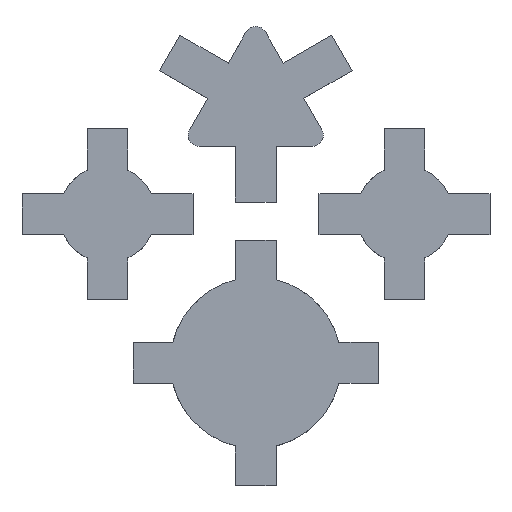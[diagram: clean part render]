
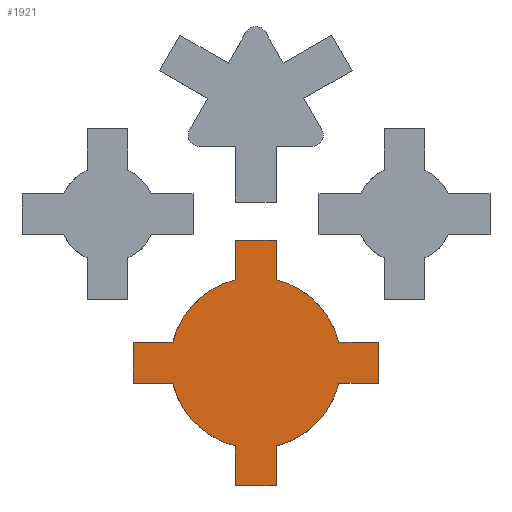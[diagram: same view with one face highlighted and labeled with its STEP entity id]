
A CAD part, top view. The second image highlights one B-rep face of the part: STEP entity #1921.
In plain terms, the highlighted planar face has unit normal (0, 0, 1).
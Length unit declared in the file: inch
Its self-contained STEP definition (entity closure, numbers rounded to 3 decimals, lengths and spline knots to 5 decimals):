
#12 = LINE ( 'NONE', #581, #266 ) ;
#32 = LINE ( 'NONE', #314, #649 ) ;
#65 = CARTESIAN_POINT ( 'NONE',  ( -0.82608, -1.88, 0. ) ) ;
#102 = CARTESIAN_POINT ( 'NONE',  ( -0.82608, -1.77, 0. ) ) ;
#104 = LINE ( 'NONE', #1757, #162 ) ;
#109 = VERTEX_POINT ( 'NONE', #102 ) ;
#112 = ORIENTED_EDGE ( 'NONE', *, *, #2004, .T. ) ;
#120 = VERTEX_POINT ( 'NONE', #286 ) ;
#123 = ORIENTED_EDGE ( 'NONE', *, *, #735, .T. ) ;
#124 = CIRCLE ( 'NONE', #1232, 0.23 ) ;
#130 = VERTEX_POINT ( 'NONE', #1042 ) ;
#134 = LINE ( 'NONE', #1567, #1386 ) ;
#135 = EDGE_CURVE ( 'NONE', #120, #710, #626, .T. ) ;
#153 = VECTOR ( 'NONE', #164, 39.37008 ) ;
#162 = VECTOR ( 'NONE', #1572, 39.37008 ) ;
#164 = DIRECTION ( 'NONE',  ( 0., 1., 0. ) ) ;
#180 = CARTESIAN_POINT ( 'NONE',  ( -0.99441, -1.60167, 0. ) ) ;
#182 = LINE ( 'NONE', #336, #1196 ) ;
#198 = AXIS2_PLACEMENT_3D ( 'NONE', #954, #1906, #1130 ) ;
#203 = ORIENTED_EDGE ( 'NONE', *, *, #1710, .T. ) ;
#206 = ORIENTED_EDGE ( 'NONE', *, *, #776, .T. ) ;
#263 = CARTESIAN_POINT ( 'NONE',  ( -0.99441, -2.155, 0. ) ) ;
#266 = VECTOR ( 'NONE', #777, 39.37008 ) ;
#286 = CARTESIAN_POINT ( 'NONE',  ( -1.10441, -2.155, 0. ) ) ;
#292 = CARTESIAN_POINT ( 'NONE',  ( -1.04941, -1.825, 0. ) ) ;
#314 = CARTESIAN_POINT ( 'NONE',  ( -0.71941, -1.88, 0. ) ) ;
#323 = VECTOR ( 'NONE', #421, 39.37008 ) ;
#336 = CARTESIAN_POINT ( 'NONE',  ( -0.71941, -1.77, 0. ) ) ;
#362 = DIRECTION ( 'NONE',  ( 1., 0., 0. ) ) ;
#393 = VERTEX_POINT ( 'NONE', #1725 ) ;
#397 = VERTEX_POINT ( 'NONE', #2280 ) ;
#398 = DIRECTION ( 'NONE',  ( 1., 0., 0. ) ) ;
#414 = VERTEX_POINT ( 'NONE', #805 ) ;
#417 = DIRECTION ( 'NONE',  ( 0., -1., 0. ) ) ;
#421 = DIRECTION ( 'NONE',  ( 1., 0., 0. ) ) ;
#479 = VERTEX_POINT ( 'NONE', #1362 ) ;
#520 = CARTESIAN_POINT ( 'NONE',  ( -1.27274, -1.77, 0. ) ) ;
#521 = ORIENTED_EDGE ( 'NONE', *, *, #135, .T. ) ;
#581 = CARTESIAN_POINT ( 'NONE',  ( -1.37941, -1.77, 0. ) ) ;
#607 = CARTESIAN_POINT ( 'NONE',  ( -1.37941, -1.88, 0. ) ) ;
#612 = CARTESIAN_POINT ( 'NONE',  ( -1.10441, -2.04833, 0. ) ) ;
#616 = CARTESIAN_POINT ( 'NONE',  ( -1.10441, -1.495, 0. ) ) ;
#626 = LINE ( 'NONE', #1601, #1047 ) ;
#634 = DIRECTION ( 'NONE',  ( 1., 0., 0. ) ) ;
#649 = VECTOR ( 'NONE', #1115, 39.37008 ) ;
#659 = CARTESIAN_POINT ( 'NONE',  ( -1.27274, -1.77, 0. ) ) ;
#710 = VERTEX_POINT ( 'NONE', #1376 ) ;
#735 = EDGE_CURVE ( 'NONE', #710, #479, #1740, .T. ) ;
#755 = VERTEX_POINT ( 'NONE', #1021 ) ;
#776 = EDGE_CURVE ( 'NONE', #414, #1516, #134, .T. ) ;
#777 = DIRECTION ( 'NONE',  ( 0., -1., 0. ) ) ;
#783 = EDGE_CURVE ( 'NONE', #2016, #120, #104, .T. ) ;
#805 = CARTESIAN_POINT ( 'NONE',  ( -0.99441, -1.495, 0. ) ) ;
#816 = DIRECTION ( 'NONE',  ( 0., 1., 0. ) ) ;
#836 = CARTESIAN_POINT ( 'NONE',  ( -1.27274, -1.88, 0. ) ) ;
#886 = DIRECTION ( 'NONE',  ( 1., 0., 0. ) ) ;
#922 = VECTOR ( 'NONE', #1792, 39.37008 ) ;
#954 = CARTESIAN_POINT ( 'NONE',  ( -1.04941, -1.825, 0. ) ) ;
#989 = EDGE_CURVE ( 'NONE', #1062, #2341, #1020, .T. ) ;
#1020 = CIRCLE ( 'NONE', #1714, 0.23 ) ;
#1021 = CARTESIAN_POINT ( 'NONE',  ( -0.99441, -1.60167, 0. ) ) ;
#1042 = CARTESIAN_POINT ( 'NONE',  ( -0.82608, -1.88, 0. ) ) ;
#1046 = ORIENTED_EDGE ( 'NONE', *, *, #2177, .T. ) ;
#1047 = VECTOR ( 'NONE', #1218, 39.37008 ) ;
#1050 = ORIENTED_EDGE ( 'NONE', *, *, #1588, .T. ) ;
#1062 = VERTEX_POINT ( 'NONE', #1287 ) ;
#1073 = ORIENTED_EDGE ( 'NONE', *, *, #1197, .T. ) ;
#1115 = DIRECTION ( 'NONE',  ( 0., 1., 0. ) ) ;
#1116 = ORIENTED_EDGE ( 'NONE', *, *, #1547, .T. ) ;
#1128 = EDGE_LOOP ( 'NONE', ( #206, #112, #1623, #1844, #2100, #1465, #1116, #2238, #521, #123, #1046, #1050, #2033, #1073, #203, #2123 ) ) ;
#1130 = DIRECTION ( 'NONE',  ( 1., 0., 0. ) ) ;
#1173 = DIRECTION ( 'NONE',  ( 0., 0., 1. ) ) ;
#1196 = VECTOR ( 'NONE', #2165, 39.37008 ) ;
#1197 = EDGE_CURVE ( 'NONE', #393, #109, #182, .T. ) ;
#1218 = DIRECTION ( 'NONE',  ( 1., 0., 0. ) ) ;
#1232 = AXIS2_PLACEMENT_3D ( 'NONE', #2133, #1173, #634 ) ;
#1267 = CIRCLE ( 'NONE', #2421, 0.23 ) ;
#1276 = CARTESIAN_POINT ( 'NONE',  ( -1.04941, -1.825, 0. ) ) ;
#1283 = CARTESIAN_POINT ( 'NONE',  ( -0.71941, -1.88, 0. ) ) ;
#1287 = CARTESIAN_POINT ( 'NONE',  ( -1.10441, -1.60167, 0. ) ) ;
#1298 = LINE ( 'NONE', #659, #922 ) ;
#1309 = EDGE_CURVE ( 'NONE', #2151, #393, #32, .T. ) ;
#1352 = CARTESIAN_POINT ( 'NONE',  ( -1.10441, -1.495, 0. ) ) ;
#1362 = CARTESIAN_POINT ( 'NONE',  ( -0.99441, -2.04833, 0. ) ) ;
#1376 = CARTESIAN_POINT ( 'NONE',  ( -0.99441, -2.155, 0. ) ) ;
#1386 = VECTOR ( 'NONE', #2322, 39.37008 ) ;
#1398 = DIRECTION ( 'NONE',  ( 1., 0., 0. ) ) ;
#1465 = ORIENTED_EDGE ( 'NONE', *, *, #1884, .T. ) ;
#1516 = VERTEX_POINT ( 'NONE', #616 ) ;
#1535 = VERTEX_POINT ( 'NONE', #1544 ) ;
#1544 = CARTESIAN_POINT ( 'NONE',  ( -1.37941, -1.88, 0. ) ) ;
#1547 = EDGE_CURVE ( 'NONE', #1687, #2016, #124, .T. ) ;
#1567 = CARTESIAN_POINT ( 'NONE',  ( -0.99441, -1.495, 0. ) ) ;
#1572 = DIRECTION ( 'NONE',  ( 0., -1., 0. ) ) ;
#1588 = EDGE_CURVE ( 'NONE', #130, #2151, #2062, .T. ) ;
#1601 = CARTESIAN_POINT ( 'NONE',  ( -1.10441, -2.155, 0. ) ) ;
#1610 = CARTESIAN_POINT ( 'NONE',  ( -1.04941, -1.825, 0. ) ) ;
#1623 = ORIENTED_EDGE ( 'NONE', *, *, #989, .T. ) ;
#1645 = DIRECTION ( 'NONE',  ( 0., 0., 1. ) ) ;
#1650 = LINE ( 'NONE', #180, #153 ) ;
#1687 = VERTEX_POINT ( 'NONE', #836 ) ;
#1710 = EDGE_CURVE ( 'NONE', #109, #755, #1761, .T. ) ;
#1714 = AXIS2_PLACEMENT_3D ( 'NONE', #1610, #1645, #886 ) ;
#1725 = CARTESIAN_POINT ( 'NONE',  ( -0.71941, -1.77, 0. ) ) ;
#1740 = LINE ( 'NONE', #263, #1939 ) ;
#1748 = EDGE_CURVE ( 'NONE', #2341, #397, #1298, .T. ) ;
#1750 = AXIS2_PLACEMENT_3D ( 'NONE', #292, #2364, #1398 ) ;
#1757 = CARTESIAN_POINT ( 'NONE',  ( -1.10441, -2.04833, 0. ) ) ;
#1759 = FACE_OUTER_BOUND ( 'NONE', #1128, .T. ) ;
#1761 = CIRCLE ( 'NONE', #1750, 0.23 ) ;
#1792 = DIRECTION ( 'NONE',  ( -1., 0., 0. ) ) ;
#1819 = VECTOR ( 'NONE', #417, 39.37008 ) ;
#1844 = ORIENTED_EDGE ( 'NONE', *, *, #1748, .T. ) ;
#1877 = VECTOR ( 'NONE', #398, 39.37008 ) ;
#1884 = EDGE_CURVE ( 'NONE', #1535, #1687, #2380, .T. ) ;
#1906 = DIRECTION ( 'NONE',  ( 0., 0., 1. ) ) ;
#1921 = ADVANCED_FACE ( 'NONE', ( #1759 ), #2074, .T. ) ;
#1939 = VECTOR ( 'NONE', #816, 39.37008 ) ;
#1961 = EDGE_CURVE ( 'NONE', #397, #1535, #12, .T. ) ;
#2004 = EDGE_CURVE ( 'NONE', #1516, #1062, #2121, .T. ) ;
#2016 = VERTEX_POINT ( 'NONE', #612 ) ;
#2033 = ORIENTED_EDGE ( 'NONE', *, *, #1309, .T. ) ;
#2062 = LINE ( 'NONE', #65, #323 ) ;
#2074 = PLANE ( 'NONE',  #198 ) ;
#2100 = ORIENTED_EDGE ( 'NONE', *, *, #1961, .T. ) ;
#2121 = LINE ( 'NONE', #1352, #1819 ) ;
#2123 = ORIENTED_EDGE ( 'NONE', *, *, #2161, .T. ) ;
#2133 = CARTESIAN_POINT ( 'NONE',  ( -1.04941, -1.825, 0. ) ) ;
#2151 = VERTEX_POINT ( 'NONE', #1283 ) ;
#2161 = EDGE_CURVE ( 'NONE', #755, #414, #1650, .T. ) ;
#2165 = DIRECTION ( 'NONE',  ( -1., 0., 0. ) ) ;
#2177 = EDGE_CURVE ( 'NONE', #479, #130, #1267, .T. ) ;
#2226 = DIRECTION ( 'NONE',  ( 0., 0., 1. ) ) ;
#2238 = ORIENTED_EDGE ( 'NONE', *, *, #783, .T. ) ;
#2280 = CARTESIAN_POINT ( 'NONE',  ( -1.37941, -1.77, 0. ) ) ;
#2322 = DIRECTION ( 'NONE',  ( -1., 0., 0. ) ) ;
#2341 = VERTEX_POINT ( 'NONE', #520 ) ;
#2364 = DIRECTION ( 'NONE',  ( 0., 0., 1. ) ) ;
#2380 = LINE ( 'NONE', #607, #1877 ) ;
#2421 = AXIS2_PLACEMENT_3D ( 'NONE', #1276, #2226, #362 ) ;
